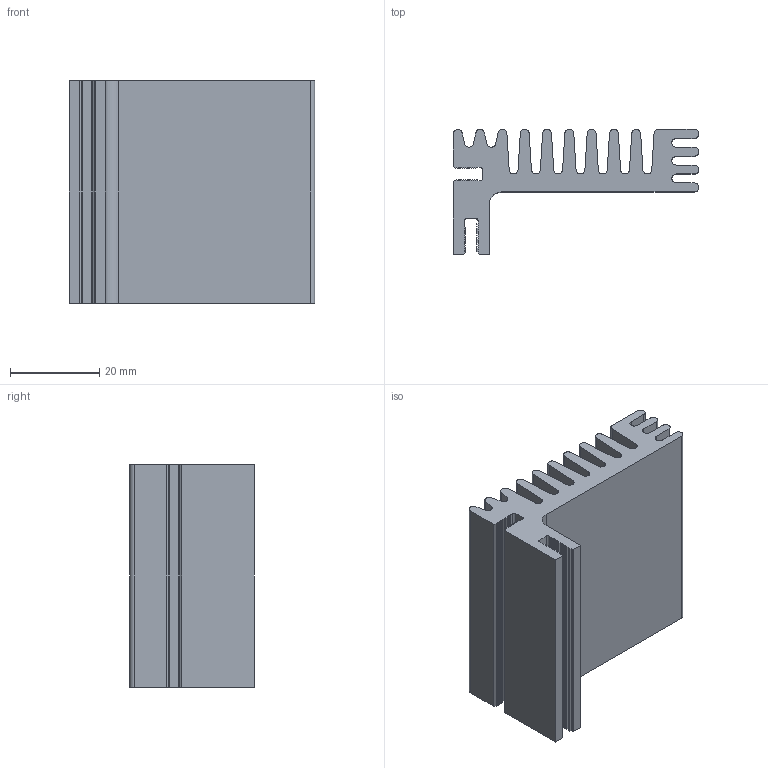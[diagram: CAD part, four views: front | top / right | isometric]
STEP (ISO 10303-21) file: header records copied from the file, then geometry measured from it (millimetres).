
FILE_DESCRIPTION (( 'STEP AP203' ), '1' );
FILE_NAME ('PR 126-50.step', '2002-10-20T23:19:42', ( 'Wolfgang Müller' ), ( 'DPS' ), 'SwSTEP 2.0', 'SolidWorks 2002264', '' );
FILE_SCHEMA (( 'CONFIG_CONTROL_DESIGN' ));
Length unit declared in the file: millimetre
Products named in the file (1): PR 126-50
Bounding box: 55 x 28 x 50 mm (x, y, z)
Volume: 30543.7 mm3; surface area: 19621.6 mm2
Topology: 1 solids, 1 shells, 281 faces, 837 edges, 558 vertices
Faces by surface type: cylinder 148, plane 133
Entity records: 9604 total; most frequent: DIRECTION 1697, CARTESIAN_POINT 1677, ORIENTED_EDGE 1674, EDGE_CURVE 837, AXIS2_PLACEMENT_3D 578, VERTEX_POINT 558, LINE 541, VECTOR 541
